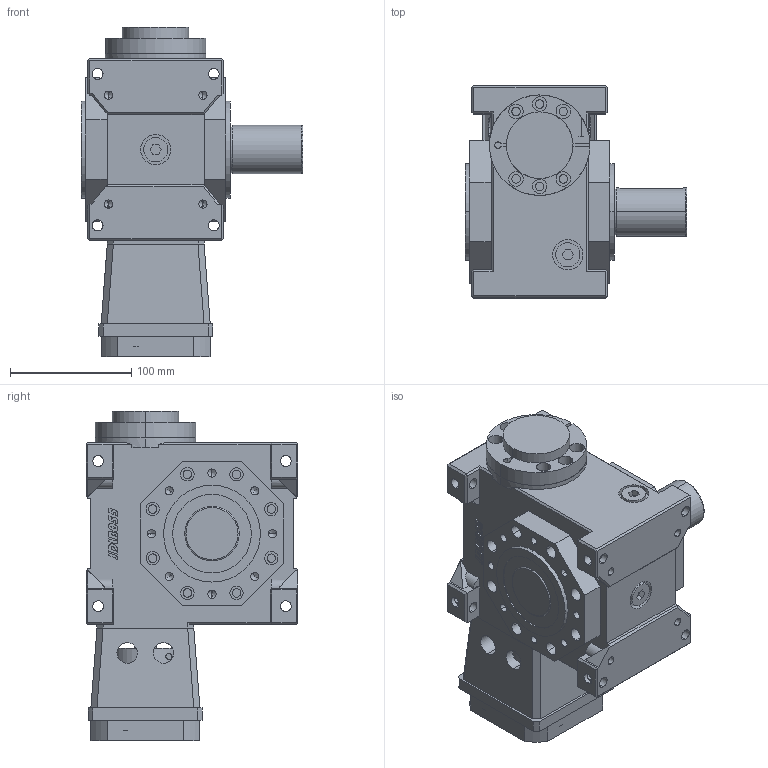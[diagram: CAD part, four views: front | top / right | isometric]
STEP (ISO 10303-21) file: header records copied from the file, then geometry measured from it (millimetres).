
FILE_DESCRIPTION (( 'STEP AP203' ), '1' );
FILE_NAME ('JDLB055-(5~90)-ASR-19-70-90-M6.STEP', '2022-02-02T10:20:15', ( '' ), ( '' ), 'SwSTEP 2.0', 'SolidWorks 2018', '' );
FILE_SCHEMA (( 'CONFIG_CONTROL_DESIGN' ));
Length unit declared in the file: millimetre
Products named in the file (6): JDLB055-ASR怀堤粣朴40; JDLB055-ST94输入法兰; ST90-70-90-M6侜督楊擘諉諳; BD56-60-19-18薊粣ん坶踡; JDLB055-(5~90)-ASR-19-70-90-M6; JDLB055-CR眊极
Assembly tree (5 placements, depth 2):
  JDLB055-(5~90)-ASR-19-70-90-M6
    JDLB055-CR眊极
    JDLB055-ASR怀堤粣朴40
    JDLB055-ST94输入法兰
    ST90-70-90-M6侜督楊擘諉諳
    BD56-60-19-18薊粣ん坶踡
Bounding box: 183 x 175 x 272 mm (x, y, z)
Volume: 3192264.4 mm3; surface area: 364356.1 mm2
Topology: 16 solids, 16 shells, 1168 faces, 2888 edges, 1831 vertices
Faces by surface type: plane 571, cylinder 425, cone 78, bspline 72, torus 22
Entity records: 40498 total; most frequent: CARTESIAN_POINT 12150, DIRECTION 5723, ORIENTED_EDGE 5652, EDGE_CURVE 2826, AXIS2_PLACEMENT_3D 2028, VERTEX_POINT 1831, LINE 1667, VECTOR 1667
